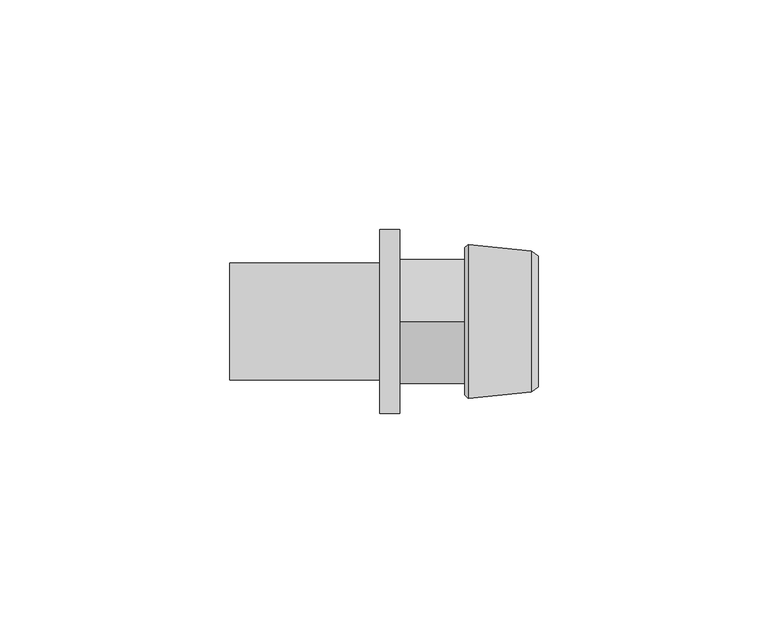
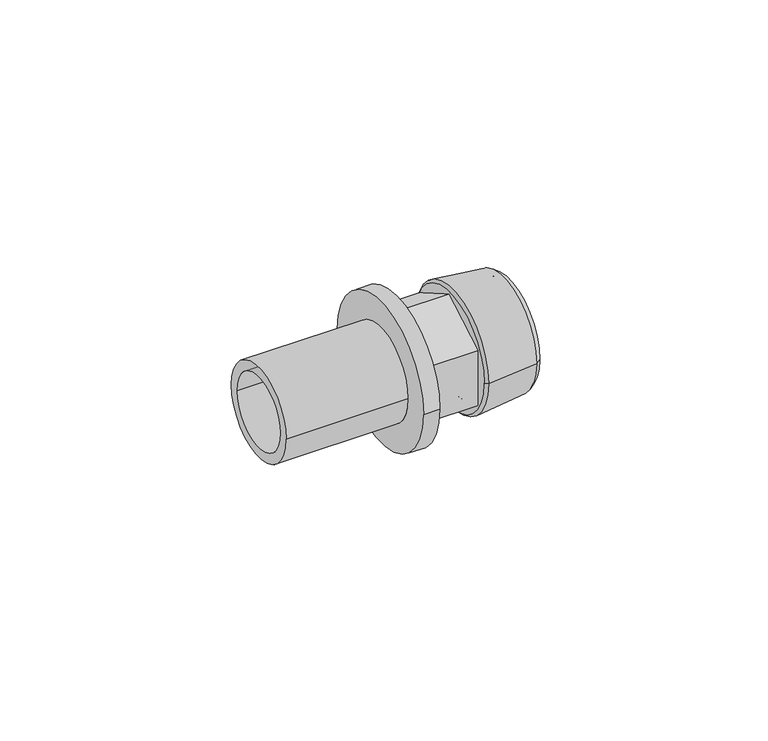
"""IFC4 building model written with IfcOpenShell, lengths in millimetres: pipe fitting geometry, RAUTITAN_Adapter_external_thread LX+G_LX : RTI A external LX+G_LX DE."""

from ifc_helpers import new_model, si_unit, frame, origin, place, context, project, spatial, polyline, circle_curve, outline, extrude, source, transform, mapped, element, save
from ifc_brep_helpers import plane_surface, cylinder_surface, revolved_surface, advanced_brep


def pipe_fitting_215c6bd6(model_context):
    return source(origin(), model_context, "Body", "SolidModel", [
        advanced_brep(
        [(-4.33, 12.725, 0.0), (-4.33, -12.725, 0.0), (-36.96, -12.725, 0.0), (-36.96, 12.725, 0.0), (0.0, 20.0, 0.0), (0.0, -20.0, 0.0), (-4.33, -20.0, 0.0), (-4.33, 20.0, 0.0), (-36.96, 10.0, 0.0), (-36.96, -10.0, 0.0), (0.0, -10.0, 0.0), (0.0, 10.0, 0.0)],
        [
            (0, 1, circle_curve(frame((-4.33, 0.0, 0.0), z_axis=(-1.0, 0.0, 0.0), x_axis=(0.0, -1.0, 0.0)), 12.725)),
            (1, 2),
            (2, 3, circle_curve(frame((-36.96, 0.0, 0.0), z_axis=(1.0, 0.0, 0.0), x_axis=(0.0, -1.0, 0.0)), 12.725)),
            (3, 0),
            (4, 5, circle_curve(frame((0.0, 0.0, 0.0), z_axis=(-1.0, 0.0, 0.0), x_axis=(0.0, -1.0, 0.0)), 20.0)),
            (5, 6),
            (6, 7, circle_curve(frame((-4.33, 0.0, 0.0), z_axis=(1.0, 0.0, 0.0), x_axis=(0.0, -1.0, 0.0)), 20.0)),
            (7, 4),
            (8, 9, circle_curve(frame((-36.96, 0.0, 0.0), z_axis=(-1.0, 0.0, 0.0), x_axis=(0.0, -1.0, 0.0)), 10.0)),
            (9, 10),
            (10, 11, circle_curve(frame((0.0, 0.0, 0.0), z_axis=(1.0, 0.0, 0.0), x_axis=(0.0, -1.0, 0.0)), 10.0)),
            (11, 8),
            (2, 3, circle_curve(frame((-36.96, 0.0, 0.0), z_axis=(-1.0, 0.0, 0.0), x_axis=(0.0, 1.0, 0.0)), 12.725)),
            (8, 9, circle_curve(frame((-36.96, 0.0, 0.0), z_axis=(1.0, 0.0, 0.0), x_axis=(0.0, 1.0, 0.0)), 10.0)),
            (1, 0, circle_curve(frame((-4.33, 0.0, 0.0), z_axis=(-1.0, 0.0, 0.0), x_axis=(0.0, 1.0, 0.0)), 12.725)),
            (6, 7, circle_curve(frame((-4.33, 0.0, 0.0), z_axis=(-1.0, 0.0, 0.0), x_axis=(0.0, 1.0, 0.0)), 20.0)),
            (5, 4, circle_curve(frame((0.0, 0.0, 0.0), z_axis=(-1.0, 0.0, 0.0), x_axis=(0.0, 1.0, 0.0)), 20.0)),
            (10, 11, circle_curve(frame((0.0, 0.0, 0.0), z_axis=(-1.0, 0.0, 0.0), x_axis=(0.0, 1.0, 0.0)), 10.0)),
        ],
        [
            cylinder_surface(frame((0.0, 0.0, 0.0), z_axis=(1.0, 0.0, 0.0), x_axis=(0.0, -1.0, 0.0)), 12.725),
            cylinder_surface(frame((0.0, 0.0, 0.0), z_axis=(1.0, 0.0, 0.0), x_axis=(0.0, -1.0, 0.0)), 20.0),
            revolved_surface(polyline([(0.0, -10.0, 0.0), (-36.96, -10.0, 0.0)]), (0.0, 0.0, 0.0), (1.0, 0.0, 0.0)),
            plane_surface(frame((-36.96, 0.0, 0.0), z_axis=(-1.0, 0.0, 0.0), x_axis=(0.0, 1.0, 0.0))),
            cylinder_surface(frame((0.0, 0.0, 0.0), z_axis=(1.0, 0.0, 0.0), x_axis=(0.0, 1.0, 0.0)), 12.725),
            plane_surface(frame((-4.33, 0.0, 0.0), z_axis=(-1.0, 0.0, 0.0), x_axis=(0.0, 1.0, 0.0))),
            cylinder_surface(frame((0.0, 0.0, 0.0), z_axis=(1.0, 0.0, 0.0), x_axis=(0.0, 1.0, 0.0)), 20.0),
            plane_surface(frame((0.0, 0.0, 0.0), z_axis=(1.0, 0.0, 0.0), x_axis=(0.0, 1.0, 0.0))),
            revolved_surface(polyline([(0.0, 10.0, 0.0), (-36.96, 10.0, 0.0)]), (0.0, 0.0, 0.0), (1.0, 0.0, 0.0)),
        ],
        [
            (0, [[1, 2, 3, 4]]),
            (1, [[5, 6, 7, 8]]),
            (2, [[9, 10, 11, 12]]),
            (3, [[13, -3], [14, -9]]),
            (4, [[15, -4, -13, -2]]),
            (5, [[16, -7], [-15, -1]]),
            (6, [[17, -8, -16, -6]]),
            (7, [[-17, -5], [18, -11]]),
            (8, [[-14, -12, -18, -10]]),
        ],
    ),
        advanced_brep(
        [(15.2932803, 12.75, 0.0), (15.2932803, -12.75, 0.0), (30.14, -12.75, 0.0), (30.14, 12.75, 0.0), (14.19, 11.6467197, 0.0), (14.19, -11.6467197, 0.0), (14.9306902, 16.715, 0.0), (14.9306902, -16.715, 0.0), (14.19, -16.045, 0.0), (14.19, 16.045, 0.0), (28.6400007, 15.305, 0.0), (28.6400007, -15.305, 0.0), (30.14, 14.235, 0.0), (30.14, -14.235, 0.0)],
        [
            (0, 1, circle_curve(frame((15.2932803, 0.0, 0.0), z_axis=(-1.0, 0.0, 0.0), x_axis=(0.0, -1.0, 0.0)), 12.75)),
            (1, 2),
            (2, 3, circle_curve(frame((30.14, 0.0, 0.0), z_axis=(1.0, 0.0, 0.0), x_axis=(0.0, -1.0, 0.0)), 12.75)),
            (3, 0),
            (4, 5, circle_curve(frame((14.19, 0.0, 0.0), z_axis=(-1.0, 0.0, 0.0), x_axis=(0.0, -1.0, 0.0)), 11.6467197)),
            (5, 1),
            (0, 4),
            (6, 7, circle_curve(frame((14.9306902, 0.0, 0.0), z_axis=(-1.0, 0.0, 0.0), x_axis=(0.0, -1.0, 0.0)), 16.715)),
            (7, 8),
            (8, 9, circle_curve(frame((14.19, 0.0, 0.0), z_axis=(1.0, 0.0, 0.0), x_axis=(0.0, -1.0, 0.0)), 16.045)),
            (9, 6),
            (10, 11, circle_curve(frame((28.6400007, 0.0, 0.0), z_axis=(-1.0, 0.0, 0.0), x_axis=(0.0, -1.0, 0.0)), 15.305)),
            (11, 7),
            (6, 10),
            (12, 13, circle_curve(frame((30.14, 0.0, 0.0), z_axis=(-1.0, 0.0, 0.0), x_axis=(0.0, -1.0, 0.0)), 14.235)),
            (13, 11),
            (10, 12),
            (1, 0, circle_curve(frame((15.2932803, 0.0, 0.0), z_axis=(-1.0, 0.0, 0.0), x_axis=(0.0, 1.0, 0.0)), 12.75)),
            (3, 2, circle_curve(frame((30.14, 0.0, 0.0), z_axis=(1.0, 0.0, 0.0), x_axis=(0.0, 1.0, 0.0)), 12.75)),
            (5, 4, circle_curve(frame((14.19, 0.0, 0.0), z_axis=(-1.0, 0.0, 0.0), x_axis=(0.0, 1.0, 0.0)), 11.6467197)),
            (8, 9, circle_curve(frame((14.19, 0.0, 0.0), z_axis=(-1.0, 0.0, 0.0), x_axis=(0.0, 1.0, 0.0)), 16.045)),
            (7, 6, circle_curve(frame((14.9306902, 0.0, 0.0), z_axis=(-1.0, 0.0, 0.0), x_axis=(0.0, 1.0, 0.0)), 16.715)),
            (11, 10, circle_curve(frame((28.6400007, 0.0, 0.0), z_axis=(-1.0, 0.0, 0.0), x_axis=(0.0, 1.0, 0.0)), 15.305)),
            (13, 12, circle_curve(frame((30.14, 0.0, 0.0), z_axis=(-1.0, 0.0, 0.0), x_axis=(0.0, 1.0, 0.0)), 14.235)),
        ],
        [
            revolved_surface(polyline([(30.14, -12.75, 0.0), (15.2932803, -12.75, 0.0)]), (0.0, 0.0, 0.0), (1.0, 0.0, 0.0)),
            revolved_surface(polyline([(15.2932803, -12.75, 0.0), (14.19, -11.6467197, 0.0)]), (0.0, 0.0, 0.0), (1.0, 0.0, 0.0)),
            revolved_surface(polyline([(14.19, -16.045, 0.0), (14.9306902, -16.715, 0.0)]), (0.0, 0.0, 0.0), (1.0, 0.0, 0.0)),
            revolved_surface(polyline([(14.9306902, -16.715, 0.0), (28.6400007, -15.305, 0.0)]), (0.0, 0.0, 0.0), (1.0, 0.0, 0.0)),
            revolved_surface(polyline([(28.6400007, -15.305, 0.0), (30.14, -14.235, 0.0)]), (0.0, 0.0, 0.0), (1.0, 0.0, 0.0)),
            revolved_surface(polyline([(30.14, 12.75, 0.0), (15.2932803, 12.75, 0.0)]), (0.0, 0.0, 0.0), (1.0, 0.0, 0.0)),
            revolved_surface(polyline([(15.2932803, 12.75, 0.0), (14.19, 11.6467197, 0.0)]), (0.0, 0.0, 0.0), (1.0, 0.0, 0.0)),
            plane_surface(frame((14.19, 0.0, 0.0), z_axis=(-1.0, 0.0, 0.0), x_axis=(0.0, 1.0, 0.0))),
            revolved_surface(polyline([(14.19, 16.045, 0.0), (14.9306902, 16.715, 0.0)]), (0.0, 0.0, 0.0), (1.0, 0.0, 0.0)),
            revolved_surface(polyline([(14.9306902, 16.715, 0.0), (28.6400007, 15.305, 0.0)]), (0.0, 0.0, 0.0), (1.0, 0.0, 0.0)),
            revolved_surface(polyline([(28.6400007, 15.305, 0.0), (30.14, 14.235, 0.0)]), (0.0, 0.0, 0.0), (1.0, 0.0, 0.0)),
            plane_surface(frame((30.14, 0.0, 0.0), z_axis=(1.0, 0.0, 0.0), x_axis=(0.0, 1.0, 0.0))),
        ],
        [
            (0, [[1, 2, 3, 4]]),
            (1, [[5, 6, -1, 7]]),
            (2, [[8, 9, 10, 11]]),
            (3, [[12, 13, -8, 14]]),
            (4, [[15, 16, -12, 17]]),
            (5, [[18, -4, 19, -2]]),
            (6, [[20, -7, -18, -6]]),
            (7, [[21, -10], [-20, -5]]),
            (8, [[22, -11, -21, -9]]),
            (9, [[23, -14, -22, -13]]),
            (10, [[24, -17, -23, -16]]),
            (11, [[-24, -15], [-19, -3]]),
        ],
    ),
        extrude(outline(polyline([(-13.5, 7.7942286), (0.0, 15.5884573), (13.5, 7.7942286), (13.5, -7.7942286), (0.0, -15.5884573), (-13.5, -7.7942286), (-13.5, 7.7942286)])), frame((0.0, 0.0, 0.0), z_axis=(1.0, 0.0, 0.0), x_axis=(0.0, 1.0, 0.0)), (0.0, 0.0, 1.0), 14.19),
    ])


if __name__ == "__main__":
    model = new_model("IFC4")
    model_context = context("Model", 3, world=origin())
    ifc_project = project(units=[si_unit("LENGTHUNIT", "METRE", prefix="MILLI")], contexts=[model_context])
    site = spatial("IfcSite", under=ifc_project)
    building = spatial("IfcBuilding", under=site)
    placement = place(None, origin())
    pipe_fitting_shape = pipe_fitting_215c6bd6(model_context)
    element("IfcPipeFitting", 1, ObjectType="RAUTITAN_Adapter_external_thread LX+G_LX : RTI A external LX+G_LX DE", at=placement, inside=building, context=model_context, shape_type="MappedRepresentation", body=[
        mapped(pipe_fitting_shape, transform((0.0, 0.0, 0.0), x_axis=(1.0, 0.0, 0.0), y_axis=(0.0, 1.0, 0.0), z_axis=(0.0, 0.0, 1.0))),
    ])
    save(model, "model.ifc")
